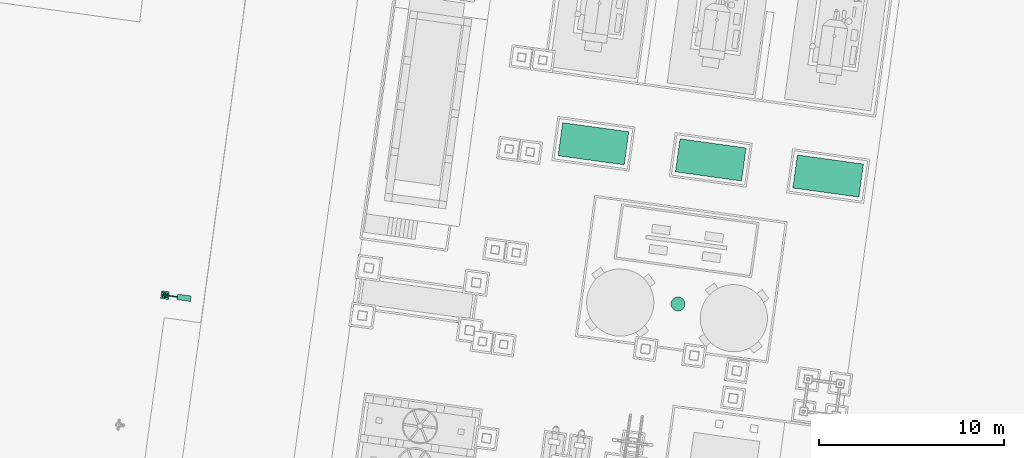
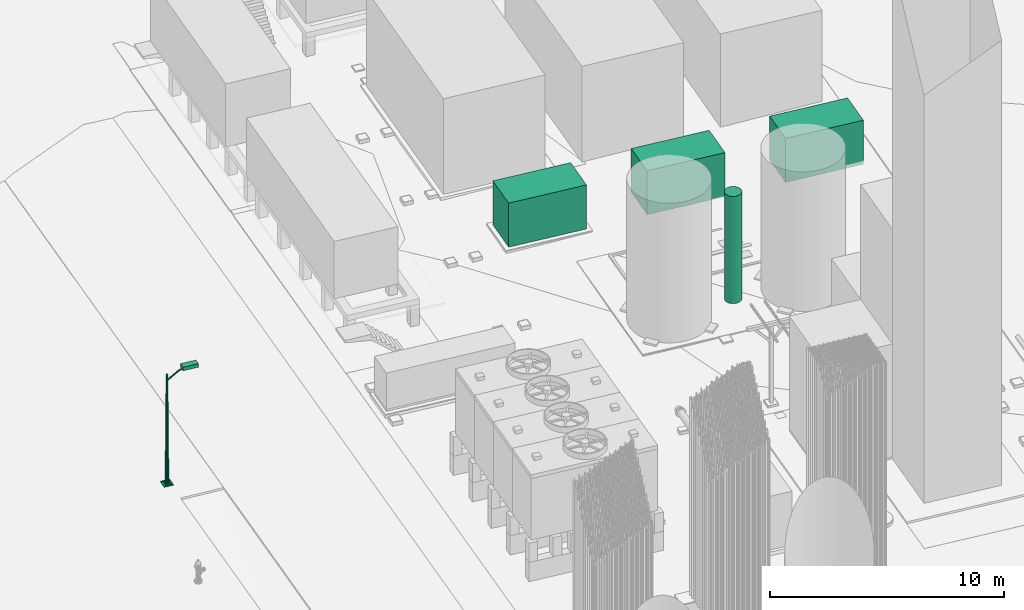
# Not in any storey, part 47 of 75: 3 unitary equipment elements, 1 electric appliance, 1 light fixture.
"""IFC4 model written with IfcOpenShell, lengths in metres."""

from ifc_helpers import new_model, si_unit, direction, origin, origin_with_axes, place, context, subcontext, project, spatial, triangles, element, save


model = new_model("IFC4")

# Units and contexts
model_context = context("Model", 3, precision=1e-05, world=origin_with_axes(), true_north=direction((0.0, 1.0)))
body_context = subcontext(model_context, "Body", "Model", "MODEL_VIEW")
ifc_project = project(units=[si_unit("AREAUNIT", "SQUARE_METRE"), si_unit("VOLUMEUNIT", "CUBIC_METRE"), si_unit("LENGTHUNIT", "METRE")], contexts=[model_context])

# Site
site_placement = place(None, origin_with_axes())
site = spatial("IfcSite", under=ifc_project, at=site_placement, Name="Parcela industrial Jinhong")

# Unitary equipment
unitary_equipment_1_placement = place(site_placement, origin_with_axes())
element("IfcUnitaryEquipment", 1, at=unitary_equipment_1_placement, inside=site, Name="Secador frigorífico de aire comprimido RU1101A", ObjectType="Envolvente de equipo", PredefinedType="USERDEFINED", context=body_context, shape_type="Tessellation", body=[
    triangles([(47.239312, 64.532918, 1.3000000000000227), (51.05093, 65.82581, 1.3000000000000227), (50.805763, 64.042584, 1.3000000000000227), (47.484479, 66.316144, 1.3000000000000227), (47.239312, 64.532918, 3.6000000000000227), (50.805763, 64.042584, 3.6000000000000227), (51.05093, 65.82581, 3.6000000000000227), (47.484479, 66.316144, 3.6000000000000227)], [[1, 2, 3], [1, 4, 2], [7, 5, 6], [7, 8, 5], [1, 3, 6], [5, 1, 6], [3, 2, 7], [3, 7, 6], [2, 4, 8], [7, 2, 8], [4, 1, 5], [5, 8, 4]], closed=True),
])
unitary_equipment_2_placement = place(site_placement, origin_with_axes())
element("IfcUnitaryEquipment", 2, at=unitary_equipment_2_placement, inside=site, Name="Secador frigorífico de aire comprimido RU1101B", ObjectType="Envolvente de equipo", PredefinedType="USERDEFINED", context=body_context, shape_type="Tessellation", body=[
    triangles([(53.579669, 63.661213, 1.3000000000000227), (57.391287, 64.954105, 1.3000000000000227), (57.14612, 63.170879, 1.3000000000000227), (53.824836, 65.444439, 1.3000000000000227), (53.579669, 63.661213, 3.6000000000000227), (57.14612, 63.170879, 3.6000000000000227), (57.391287, 64.954105, 3.6000000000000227), (53.824836, 65.444439, 3.6000000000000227)], [[1, 2, 3], [1, 4, 2], [7, 5, 6], [7, 8, 5], [1, 3, 6], [5, 1, 6], [3, 2, 7], [3, 7, 6], [2, 4, 8], [7, 2, 8], [4, 1, 5], [5, 8, 4]], closed=True),
])
unitary_equipment_3_placement = place(site_placement, origin_with_axes())
element("IfcUnitaryEquipment", 3, at=unitary_equipment_3_placement, inside=site, Name="Secador frigorífico de aire comprimido RU1101C", ObjectType="Envolvente de equipo", PredefinedType="USERDEFINED", context=body_context, shape_type="Tessellation", body=[
    triangles([(59.920026, 62.789508, 1.3000000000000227), (63.731644, 64.0824, 1.3000000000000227), (63.486477, 62.299174, 1.3000000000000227), (60.165193, 64.572734, 1.3000000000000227), (59.920026, 62.789508, 3.6000000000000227), (63.486477, 62.299174, 3.6000000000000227), (63.731644, 64.0824, 3.6000000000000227), (60.165193, 64.572734, 3.6000000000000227)], [[1, 2, 3], [1, 4, 2], [7, 5, 6], [7, 8, 5], [1, 3, 6], [5, 1, 6], [3, 2, 7], [3, 7, 6], [2, 4, 8], [7, 2, 8], [4, 1, 5], [5, 8, 4]], closed=True),
])

# Electric appliance
electric_appliance_placement = place(site_placement, origin_with_axes())
element("IfcElectricAppliance", 4, at=electric_appliance_placement, inside=site, Name="Calentador eléctrico · envolvente exterior documentada", ObjectType="Marcador de equipo en planta", PredefinedType="USERDEFINED", context=body_context, shape_type="Tessellation", body=[
    triangles([(53.71126721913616, 56.526642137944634, 1.2000000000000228), (54.08273823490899, 56.47557038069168, 1.2000000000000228), (54.085283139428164, 56.499975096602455, 1.2000000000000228), (54.08622645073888, 56.52449400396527, 1.2000000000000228), (54.085564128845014, 56.54902211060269, 1.2000000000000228), (54.08329901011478, 56.57345438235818, 1.2000000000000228), (54.079440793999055, 56.597686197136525, 1.2000000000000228), (54.074006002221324, 56.62161378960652, 1.2000000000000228), (54.0670179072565, 56.645134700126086, 1.2000000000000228), (54.05850643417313, 56.6681482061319, 1.2000000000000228), (54.04850802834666, 56.69055576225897, 1.2000000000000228), (54.03706550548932, 56.71226141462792, 1.2000000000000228), (54.02422786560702, 56.733172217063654, 1.2000000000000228), (54.01005007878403, 56.753198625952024, 1.2000000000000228), (53.994592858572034, 56.77225488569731, 1.2000000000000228), (53.97792239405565, 56.790259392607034, 1.2000000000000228), (53.96011007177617, 56.807135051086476, 1.2000000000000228), (53.94123216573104, 56.822809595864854, 1.2000000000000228), (53.92136951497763, 56.837215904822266, 1.2000000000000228), (53.90060717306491, 56.85029229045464, 1.2000000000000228), (53.87903404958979, 56.86198275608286, 1.2000000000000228), (53.85674252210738, 56.872237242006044, 1.2000000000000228), (53.83382804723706, 56.88101183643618, 1.2000000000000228), (53.81038874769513, 56.88826896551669, 1.2000000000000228), (53.78652499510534, 56.89397755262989, 1.2000000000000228), (53.76233897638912, 56.89811315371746, 1.2000000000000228), (53.73793426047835, 56.90065805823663, 1.2000000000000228), (53.71341535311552, 56.90160136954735, 1.2000000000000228), (53.68888724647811, 56.90093904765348, 1.2000000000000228), (53.664454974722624, 56.898673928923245, 1.2000000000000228), (53.64022315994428, 56.89481571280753, 1.2000000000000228), (53.61629556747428, 56.8893809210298, 1.2000000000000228), (53.59277465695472, 56.882392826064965, 1.2000000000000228), (53.56976115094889, 56.8738813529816, 1.2000000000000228), (53.54735359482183, 56.86388294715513, 1.2000000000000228), (53.52564794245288, 56.8524404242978, 1.2000000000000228), (53.50473714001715, 56.83960278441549, 1.2000000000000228), (53.48471073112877, 56.825424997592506, 1.2000000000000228), (53.46565447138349, 56.80996777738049, 1.2000000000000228), (53.44764996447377, 56.79329731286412, 1.2000000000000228), (53.430774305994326, 56.775484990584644, 1.2000000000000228), (53.41509976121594, 56.75660708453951, 1.2000000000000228), (53.40069345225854, 56.73674443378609, 1.2000000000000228), (53.38761706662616, 56.715982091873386, 1.2000000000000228), (53.37592660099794, 56.69440896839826, 1.2000000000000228), (53.36567211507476, 56.672117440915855, 1.2000000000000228), (53.35689752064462, 56.64920296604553, 1.2000000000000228), (53.349640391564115, 56.6257636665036, 1.2000000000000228), (53.343931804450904, 56.60189991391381, 1.2000000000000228), (53.33979620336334, 56.57771389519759, 1.2000000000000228), (53.337251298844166, 56.55330917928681, 1.2000000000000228), (53.33630798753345, 56.52879027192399, 1.2000000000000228), (53.33697030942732, 56.504262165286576, 1.2000000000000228), (53.33923542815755, 56.47982989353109, 1.2000000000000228), (53.343093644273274, 56.45559807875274, 1.2000000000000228), (53.348528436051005, 56.43167048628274, 1.2000000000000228), (53.35551653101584, 56.40814957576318, 1.2000000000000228), (53.3640280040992, 56.385136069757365, 1.2000000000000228), (53.37402640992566, 56.3627285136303, 1.2000000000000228), (53.385468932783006, 56.34102286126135, 1.2000000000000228), (53.39830657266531, 56.320112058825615, 1.2000000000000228), (53.4124843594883, 56.300085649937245, 1.2000000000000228), (53.4279415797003, 56.281029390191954, 1.2000000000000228), (53.44461204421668, 56.26302488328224, 1.2000000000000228), (53.46242436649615, 56.24614922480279, 1.2000000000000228), (53.481302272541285, 56.230474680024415, 1.2000000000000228), (53.50116492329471, 56.216068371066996, 1.2000000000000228), (53.52192726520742, 56.20299198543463, 1.2000000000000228), (53.543500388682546, 56.19130151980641, 1.2000000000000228), (53.56579191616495, 56.18104703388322, 1.2000000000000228), (53.588706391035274, 56.17227243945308, 1.2000000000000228), (53.612145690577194, 56.16501531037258, 1.2000000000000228), (53.636009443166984, 56.15930672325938, 1.2000000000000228), (53.66019546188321, 56.15517112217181, 1.2000000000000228), (53.68460017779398, 56.15262621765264, 1.2000000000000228), (53.70911908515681, 56.15168290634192, 1.2000000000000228), (53.73364719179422, 56.15234522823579, 1.2000000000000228), (53.758079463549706, 56.154610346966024, 1.2000000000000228), (53.78231127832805, 56.15846856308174, 1.2000000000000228), (53.806238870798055, 56.16390335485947, 1.2000000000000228), (53.82975978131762, 56.170891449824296, 1.2000000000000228), (53.85277328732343, 56.17940292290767, 1.2000000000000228), (53.875180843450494, 56.189401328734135, 1.2000000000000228), (53.89688649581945, 56.20084385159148, 1.2000000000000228), (53.91779729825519, 56.21368149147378, 1.2000000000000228), (53.937823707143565, 56.22785927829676, 1.2000000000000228), (53.95687996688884, 56.24331649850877, 1.2000000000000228), (53.97488447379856, 56.25998696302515, 1.2000000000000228), (53.991760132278, 56.277799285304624, 1.2000000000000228), (54.00743467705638, 56.29667719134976, 1.2000000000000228), (54.0218409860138, 56.31653984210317, 1.2000000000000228), (54.03491737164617, 56.33730218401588, 1.2000000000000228), (54.046607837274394, 56.358875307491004, 1.2000000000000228), (54.05686232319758, 56.38116683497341, 1.2000000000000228), (54.065636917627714, 56.40408130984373, 1.2000000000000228), (54.072894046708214, 56.42752060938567, 1.2000000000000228), (54.07860263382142, 56.45138436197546, 1.2000000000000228), (54.08273823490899, 56.47557038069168, 6.800000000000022), (54.085283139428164, 56.499975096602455, 6.800000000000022), (54.08622645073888, 56.52449400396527, 6.800000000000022), (54.085564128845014, 56.54902211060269, 6.800000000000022), (54.08329901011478, 56.57345438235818, 6.800000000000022), (54.079440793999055, 56.597686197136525, 6.800000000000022), (54.074006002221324, 56.62161378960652, 6.800000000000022), (54.0670179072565, 56.645134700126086, 6.800000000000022), (54.05850643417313, 56.6681482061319, 6.800000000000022), (54.04850802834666, 56.69055576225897, 6.800000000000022), (54.03706550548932, 56.71226141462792, 6.800000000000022), (54.02422786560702, 56.733172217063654, 6.800000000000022), (54.01005007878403, 56.753198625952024, 6.800000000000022), (53.994592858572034, 56.77225488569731, 6.800000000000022), (53.97792239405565, 56.790259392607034, 6.800000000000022), (53.96011007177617, 56.807135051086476, 6.800000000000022), (53.94123216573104, 56.822809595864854, 6.800000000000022), (53.92136951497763, 56.837215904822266, 6.800000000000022), (53.90060717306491, 56.85029229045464, 6.800000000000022), (53.87903404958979, 56.86198275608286, 6.800000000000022), (53.85674252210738, 56.872237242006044, 6.800000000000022), (53.83382804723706, 56.88101183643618, 6.800000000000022), (53.81038874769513, 56.88826896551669, 6.800000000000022), (53.78652499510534, 56.89397755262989, 6.800000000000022), (53.76233897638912, 56.89811315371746, 6.800000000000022), (53.73793426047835, 56.90065805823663, 6.800000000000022), (53.71341535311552, 56.90160136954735, 6.800000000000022), (53.68888724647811, 56.90093904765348, 6.800000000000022), (53.664454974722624, 56.898673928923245, 6.800000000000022), (53.64022315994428, 56.89481571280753, 6.800000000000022), (53.61629556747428, 56.8893809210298, 6.800000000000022), (53.59277465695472, 56.882392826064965, 6.800000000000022), (53.56976115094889, 56.8738813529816, 6.800000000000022), (53.54735359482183, 56.86388294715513, 6.800000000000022), (53.52564794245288, 56.8524404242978, 6.800000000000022), (53.50473714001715, 56.83960278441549, 6.800000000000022), (53.48471073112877, 56.825424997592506, 6.800000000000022), (53.46565447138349, 56.80996777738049, 6.800000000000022), (53.44764996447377, 56.79329731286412, 6.800000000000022), (53.430774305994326, 56.775484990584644, 6.800000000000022), (53.41509976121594, 56.75660708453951, 6.800000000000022), (53.40069345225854, 56.73674443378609, 6.800000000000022), (53.38761706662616, 56.715982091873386, 6.800000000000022), (53.37592660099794, 56.69440896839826, 6.800000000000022), (53.36567211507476, 56.672117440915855, 6.800000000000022), (53.35689752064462, 56.64920296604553, 6.800000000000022), (53.349640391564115, 56.6257636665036, 6.800000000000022), (53.343931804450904, 56.60189991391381, 6.800000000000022), (53.33979620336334, 56.57771389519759, 6.800000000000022), (53.337251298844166, 56.55330917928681, 6.800000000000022), (53.33630798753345, 56.52879027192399, 6.800000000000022), (53.33697030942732, 56.504262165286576, 6.800000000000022), (53.33923542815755, 56.47982989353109, 6.800000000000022), (53.343093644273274, 56.45559807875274, 6.800000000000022), (53.348528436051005, 56.43167048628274, 6.800000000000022), (53.35551653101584, 56.40814957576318, 6.800000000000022), (53.3640280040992, 56.385136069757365, 6.800000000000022), (53.37402640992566, 56.3627285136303, 6.800000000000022), (53.385468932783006, 56.34102286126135, 6.800000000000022), (53.39830657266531, 56.320112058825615, 6.800000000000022), (53.4124843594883, 56.300085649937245, 6.800000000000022), (53.4279415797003, 56.281029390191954, 6.800000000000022), (53.44461204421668, 56.26302488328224, 6.800000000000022), (53.46242436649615, 56.24614922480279, 6.800000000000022), (53.481302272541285, 56.230474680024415, 6.800000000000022), (53.50116492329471, 56.216068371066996, 6.800000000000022), (53.52192726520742, 56.20299198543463, 6.800000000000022), (53.543500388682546, 56.19130151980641, 6.800000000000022), (53.56579191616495, 56.18104703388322, 6.800000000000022), (53.588706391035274, 56.17227243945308, 6.800000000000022), (53.612145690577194, 56.16501531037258, 6.800000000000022), (53.636009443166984, 56.15930672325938, 6.800000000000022), (53.66019546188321, 56.15517112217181, 6.800000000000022), (53.68460017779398, 56.15262621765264, 6.800000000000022), (53.70911908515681, 56.15168290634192, 6.800000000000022), (53.73364719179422, 56.15234522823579, 6.800000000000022), (53.758079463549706, 56.154610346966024, 6.800000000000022), (53.78231127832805, 56.15846856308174, 6.800000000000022), (53.806238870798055, 56.16390335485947, 6.800000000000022), (53.82975978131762, 56.170891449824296, 6.800000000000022), (53.85277328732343, 56.17940292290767, 6.800000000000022), (53.875180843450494, 56.189401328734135, 6.800000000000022), (53.89688649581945, 56.20084385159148, 6.800000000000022), (53.91779729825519, 56.21368149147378, 6.800000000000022), (53.937823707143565, 56.22785927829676, 6.800000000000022), (53.95687996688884, 56.24331649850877, 6.800000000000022), (53.97488447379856, 56.25998696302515, 6.800000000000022), (53.991760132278, 56.277799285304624, 6.800000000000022), (54.00743467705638, 56.29667719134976, 6.800000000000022), (54.0218409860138, 56.31653984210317, 6.800000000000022), (54.03491737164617, 56.33730218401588, 6.800000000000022), (54.046607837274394, 56.358875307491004, 6.800000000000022), (54.05686232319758, 56.38116683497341, 6.800000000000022), (54.065636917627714, 56.40408130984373, 6.800000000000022), (54.072894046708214, 56.42752060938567, 6.800000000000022), (54.07860263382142, 56.45138436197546, 6.800000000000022), (53.71126721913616, 56.526642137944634, 6.800000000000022)], [[3, 2, 1], [4, 3, 1], [5, 4, 1], [6, 5, 1], [7, 6, 1], [8, 7, 1], [9, 8, 1], [10, 9, 1], [11, 10, 1], [12, 11, 1], [13, 12, 1], [14, 13, 1], [15, 14, 1], [16, 15, 1], [17, 16, 1], [18, 17, 1], [19, 18, 1], [20, 19, 1], [21, 20, 1], [22, 21, 1], [23, 22, 1], [24, 23, 1], [25, 24, 1], [26, 25, 1], [27, 26, 1], [28, 27, 1], [29, 28, 1], [30, 29, 1], [31, 30, 1], [32, 31, 1], [33, 32, 1], [34, 33, 1], [35, 34, 1], [36, 35, 1], [37, 36, 1], [38, 37, 1], [39, 38, 1], [40, 39, 1], [41, 40, 1], [42, 41, 1], [43, 42, 1], [44, 43, 1], [45, 44, 1], [46, 45, 1], [47, 46, 1], [48, 47, 1], [49, 48, 1], [50, 49, 1], [51, 50, 1], [52, 51, 1], [53, 52, 1], [54, 53, 1], [55, 54, 1], [56, 55, 1], [57, 56, 1], [58, 57, 1], [59, 58, 1], [60, 59, 1], [61, 60, 1], [62, 61, 1], [63, 62, 1], [64, 63, 1], [65, 64, 1], [66, 65, 1], [67, 66, 1], [68, 67, 1], [69, 68, 1], [70, 69, 1], [71, 70, 1], [72, 71, 1], [73, 72, 1], [74, 73, 1], [75, 74, 1], [76, 75, 1], [77, 76, 1], [78, 77, 1], [79, 78, 1], [80, 79, 1], [81, 80, 1], [82, 81, 1], [83, 82, 1], [84, 83, 1], [85, 84, 1], [86, 85, 1], [87, 86, 1], [88, 87, 1], [89, 88, 1], [90, 89, 1], [91, 90, 1], [92, 91, 1], [93, 92, 1], [94, 93, 1], [95, 94, 1], [96, 95, 1], [97, 96, 1], [2, 97, 1], [99, 98, 2], [3, 99, 2], [100, 99, 3], [4, 100, 3], [101, 100, 4], [5, 101, 4], [102, 101, 5], [6, 102, 5], [103, 102, 6], [7, 103, 6], [104, 103, 7], [8, 104, 7], [105, 104, 8], [9, 105, 8], [106, 105, 9], [10, 106, 9], [107, 106, 10], [11, 107, 10], [108, 107, 11], [12, 108, 11], [109, 108, 12], [13, 109, 12], [110, 109, 13], [14, 110, 13], [111, 110, 14], [15, 111, 14], [112, 111, 15], [16, 112, 15], [113, 112, 16], [17, 113, 16], [114, 113, 17], [18, 114, 17], [115, 114, 18], [19, 115, 18], [116, 115, 19], [20, 116, 19], [117, 116, 20], [21, 117, 20], [118, 117, 21], [22, 118, 21], [119, 118, 22], [23, 119, 22], [120, 119, 23], [24, 120, 23], [121, 120, 24], [25, 121, 24], [122, 121, 25], [26, 122, 25], [123, 122, 26], [27, 123, 26], [124, 123, 27], [28, 124, 27], [125, 124, 28], [29, 125, 28], [126, 125, 29], [30, 126, 29], [127, 126, 30], [31, 127, 30], [128, 127, 31], [32, 128, 31], [129, 128, 32], [33, 129, 32], [130, 129, 33], [34, 130, 33], [131, 130, 34], [35, 131, 34], [132, 131, 35], [36, 132, 35], [133, 132, 36], [37, 133, 36], [134, 133, 37], [38, 134, 37], [135, 134, 38], [39, 135, 38], [136, 135, 39], [40, 136, 39], [137, 136, 40], [41, 137, 40], [138, 137, 41], [42, 138, 41], [139, 138, 42], [43, 139, 42], [140, 139, 43], [44, 140, 43], [141, 140, 44], [45, 141, 44], [142, 141, 45], [46, 142, 45], [143, 142, 46], [47, 143, 46], [144, 143, 47], [48, 144, 47], [145, 144, 48], [49, 145, 48], [146, 145, 49], [50, 146, 49], [147, 146, 50], [51, 147, 50], [148, 147, 51], [52, 148, 51], [149, 148, 52], [53, 149, 52], [150, 149, 53], [54, 150, 53], [151, 150, 54], [55, 151, 54], [152, 151, 55], [56, 152, 55], [153, 152, 56], [57, 153, 56], [154, 153, 57], [58, 154, 57], [155, 154, 58], [59, 155, 58], [156, 155, 59], [60, 156, 59], [157, 156, 60], [61, 157, 60], [158, 157, 61], [62, 158, 61], [159, 158, 62], [63, 159, 62], [160, 159, 63], [64, 160, 63], [161, 160, 64], [65, 161, 64], [162, 161, 65], [66, 162, 65], [163, 162, 66], [67, 163, 66], [164, 163, 67], [68, 164, 67], [165, 164, 68], [69, 165, 68], [166, 165, 69], [70, 166, 69], [167, 166, 70], [71, 167, 70], [168, 167, 71], [72, 168, 71], [169, 168, 72], [73, 169, 72], [170, 169, 73], [74, 170, 73], [171, 170, 74], [75, 171, 74], [172, 171, 75], [76, 172, 75], [173, 172, 76], [77, 173, 76], [174, 173, 77], [78, 174, 77], [175, 174, 78], [79, 175, 78], [176, 175, 79], [80, 176, 79], [177, 176, 80], [81, 177, 80], [178, 177, 81], [82, 178, 81], [179, 178, 82], [83, 179, 82], [180, 179, 83], [84, 180, 83], [181, 180, 84], [85, 181, 84], [182, 181, 85], [86, 182, 85], [183, 182, 86], [87, 183, 86], [184, 183, 87], [88, 184, 87], [185, 184, 88], [89, 185, 88], [186, 185, 89], [90, 186, 89], [187, 186, 90], [91, 187, 90], [188, 187, 91], [92, 188, 91], [189, 188, 92], [93, 189, 92], [190, 189, 93], [94, 190, 93], [191, 190, 94], [95, 191, 94], [192, 191, 95], [96, 192, 95], [193, 192, 96], [97, 193, 96], [98, 193, 97], [2, 98, 97], [99, 194, 98], [100, 194, 99], [101, 194, 100], [102, 194, 101], [103, 194, 102], [104, 194, 103], [105, 194, 104], [106, 194, 105], [107, 194, 106], [108, 194, 107], [109, 194, 108], [110, 194, 109], [111, 194, 110], [112, 194, 111], [113, 194, 112], [114, 194, 113], [115, 194, 114], [116, 194, 115], [117, 194, 116], [118, 194, 117], [119, 194, 118], [120, 194, 119], [121, 194, 120], [122, 194, 121], [123, 194, 122], [124, 194, 123], [125, 194, 124], [126, 194, 125], [127, 194, 126], [128, 194, 127], [129, 194, 128], [130, 194, 129], [131, 194, 130], [132, 194, 131], [133, 194, 132], [134, 194, 133], [135, 194, 134], [136, 194, 135], [137, 194, 136], [138, 194, 137], [139, 194, 138], [140, 194, 139], [141, 194, 140], [142, 194, 141], [143, 194, 142], [144, 194, 143], [145, 194, 144], [146, 194, 145], [147, 194, 146], [148, 194, 147], [149, 194, 148], [150, 194, 149], [151, 194, 150], [152, 194, 151], [153, 194, 152], [154, 194, 153], [155, 194, 154], [156, 194, 155], [157, 194, 156], [158, 194, 157], [159, 194, 158], [160, 194, 159], [161, 194, 160], [162, 194, 161], [163, 194, 162], [164, 194, 163], [165, 194, 164], [166, 194, 165], [167, 194, 166], [168, 194, 167], [169, 194, 168], [170, 194, 169], [171, 194, 170], [172, 194, 171], [173, 194, 172], [174, 194, 173], [175, 194, 174], [176, 194, 175], [177, 194, 176], [178, 194, 177], [179, 194, 178], [180, 194, 179], [181, 194, 180], [182, 194, 181], [183, 194, 182], [184, 194, 183], [185, 194, 184], [186, 194, 185], [187, 194, 186], [188, 194, 187], [189, 194, 188], [190, 194, 189], [191, 194, 190], [192, 194, 191], [193, 194, 192], [98, 194, 193]], closed=True),
])

# Light fixture
light_fixture_placement = place(None, origin())
element("IfcLightFixture", 5, at=light_fixture_placement, inside=site, Name="Luminaria LED L08 · provisional", ObjectType="Luminaria exterior provisional", PredefinedType="USERDEFINED", context=body_context, shape_type="Tessellation", body=[
    triangles([(25.763308, 56.820621, 0.938896), (25.763308, 56.820621, 0.998896), (25.820621, 57.236692, 0.938896), (25.820621, 57.236692, 0.998896), (26.179379, 56.763308, 0.938896), (26.179379, 56.763308, 0.998896), (26.236692, 57.179379, 0.938896), (26.236692, 57.179379, 0.998896)], [[2, 4, 1], [5, 2, 1], [1, 4, 3], [3, 5, 1], [2, 8, 4], [6, 2, 5], [6, 8, 2], [4, 8, 3], [7, 5, 3], [3, 8, 7], [7, 6, 5], [8, 6, 7]], closed=True),
    triangles([(26.0, 57.0, 0.998896), (26.13869, 56.980896, 0.998896), (26.13869, 56.980896, 1.058896), (26.0, 57.0, 1.058896), (26.135444, 57.035425, 0.998896), (26.135444, 57.035425, 1.058896), (26.111578, 57.08456, 0.998896), (26.111578, 57.08456, 1.058896), (26.070725, 57.120822, 0.998896), (26.070725, 57.120822, 1.058896), (26.019104, 57.13869, 0.998896), (26.019104, 57.13869, 1.058896), (25.964575, 57.135444, 0.998896), (25.964575, 57.135444, 1.058896), (25.91544, 57.111578, 0.998896), (25.91544, 57.111578, 1.058896), (25.879178, 57.070725, 0.998896), (25.879178, 57.070725, 1.058896), (25.86131, 57.019104, 0.998896), (25.86131, 57.019104, 1.058896), (25.864556, 56.964575, 0.998896), (25.864556, 56.964575, 1.058896), (25.888422, 56.91544, 0.998896), (25.888422, 56.91544, 1.058896), (25.929275, 56.879178, 0.998896), (25.929275, 56.879178, 1.058896), (25.980896, 56.86131, 0.998896), (25.980896, 56.86131, 1.058896), (26.035425, 56.864556, 0.998896), (26.035425, 56.864556, 1.058896), (26.08456, 56.888422, 0.998896), (26.08456, 56.888422, 1.058896), (26.120822, 56.929275, 0.998896), (26.120822, 56.929275, 1.058896)], [[2, 1, 5], [2, 5, 3], [3, 5, 6], [3, 6, 4], [5, 1, 7], [5, 7, 6], [6, 7, 8], [6, 8, 4], [7, 1, 9], [7, 9, 8], [8, 9, 10], [8, 10, 4], [9, 1, 11], [9, 11, 10], [10, 11, 12], [10, 12, 4], [11, 1, 13], [11, 13, 12], [12, 13, 14], [12, 14, 4], [13, 1, 15], [13, 15, 14], [14, 15, 16], [14, 16, 4], [15, 1, 17], [15, 17, 16], [16, 17, 18], [16, 18, 4], [17, 1, 19], [17, 19, 18], [18, 19, 20], [18, 20, 4], [19, 1, 21], [19, 21, 20], [20, 21, 22], [20, 22, 4], [21, 1, 23], [21, 23, 22], [22, 23, 24], [22, 24, 4], [23, 1, 25], [23, 25, 24], [24, 25, 26], [24, 26, 4], [25, 1, 27], [25, 27, 26], [26, 27, 28], [26, 28, 4], [27, 1, 29], [27, 29, 28], [28, 29, 30], [28, 30, 4], [29, 1, 31], [29, 31, 30], [30, 31, 32], [30, 32, 4], [31, 1, 33], [31, 33, 32], [32, 33, 34], [32, 34, 4], [33, 1, 2], [33, 2, 34], [34, 2, 3], [34, 3, 4]], closed=True),
    triangles([(26.084205, 56.988401, 1.058896), (26.082234, 57.021508, 1.058896), (26.067744, 57.05134, 1.058896), (26.04294, 57.073356, 1.058896), (26.011599, 57.084205, 1.058896), (25.978492, 57.082234, 1.058896), (25.94866, 57.067744, 1.058896), (25.926644, 57.04294, 1.058896), (25.915795, 57.011599, 1.058896), (25.917766, 56.978492, 1.058896), (25.932256, 56.94866, 1.058896), (25.95706, 56.926644, 1.058896), (25.988401, 56.915795, 1.058896), (26.021508, 56.917766, 1.058896), (26.05134, 56.932256, 1.058896), (26.073356, 56.95706, 1.058896), (26.044579, 56.993859, 6.638896), (26.043536, 57.011386, 6.638896), (26.035864, 57.02718, 6.638896), (26.022733, 57.038836, 6.638896), (26.006141, 57.044579, 6.638896), (25.988614, 57.043536, 6.638896), (25.97282, 57.035864, 6.638896), (25.961164, 57.022733, 6.638896), (25.955421, 57.006141, 6.638896), (25.956464, 56.988614, 6.638896), (25.964136, 56.97282, 6.638896), (25.977267, 56.961164, 6.638896), (25.993859, 56.955421, 6.638896), (26.011386, 56.956464, 6.638896), (26.02718, 56.964136, 6.638896), (26.038836, 56.977267, 6.638896)], [[31, 14, 15], [30, 14, 31], [29, 14, 30], [13, 14, 29], [26, 10, 11], [26, 11, 27], [9, 10, 26], [26, 25, 9], [4, 10, 9], [1, 16, 4], [13, 12, 4], [4, 6, 5], [9, 8, 4], [4, 2, 1], [4, 16, 15], [3, 2, 4], [4, 12, 11], [11, 10, 4], [4, 14, 13], [15, 14, 4], [7, 6, 4], [4, 8, 7], [1, 2, 18], [18, 17, 1], [32, 16, 1], [1, 17, 32], [15, 16, 32], [32, 31, 15], [11, 12, 28], [27, 11, 28], [28, 12, 13], [13, 29, 28], [21, 4, 5], [20, 4, 21], [7, 8, 24], [23, 7, 24], [9, 25, 24], [24, 8, 9], [3, 4, 19], [19, 4, 20], [19, 2, 3], [19, 18, 2], [22, 32, 17], [22, 26, 27], [17, 18, 22], [22, 19, 20], [27, 28, 22], [30, 31, 22], [22, 29, 30], [25, 26, 22], [23, 24, 22], [31, 32, 22], [22, 28, 29], [20, 21, 22], [22, 24, 25], [18, 19, 22], [22, 6, 7], [22, 7, 23], [5, 6, 22], [22, 21, 5]], closed=True),
    triangles([(26.0, 57.0, 6.638896), (26.04656, 56.993586, 6.638896), (26.04656, 56.993586, 6.658896), (26.0, 57.0, 6.658896), (26.045471, 57.011893, 6.638896), (26.045471, 57.011893, 6.658896), (26.037458, 57.028388, 6.638896), (26.037458, 57.028388, 6.658896), (26.023743, 57.040562, 6.638896), (26.023743, 57.040562, 6.658896), (26.006414, 57.04656, 6.638896), (26.006414, 57.04656, 6.658896), (25.988107, 57.045471, 6.638896), (25.988107, 57.045471, 6.658896), (25.971612, 57.037458, 6.638896), (25.971612, 57.037458, 6.658896), (25.959438, 57.023743, 6.638896), (25.959438, 57.023743, 6.658896), (25.95344, 57.006414, 6.638896), (25.95344, 57.006414, 6.658896), (25.954529, 56.988107, 6.638896), (25.954529, 56.988107, 6.658896), (25.962542, 56.971612, 6.638896), (25.962542, 56.971612, 6.658896), (25.976257, 56.959438, 6.638896), (25.976257, 56.959438, 6.658896), (25.993586, 56.95344, 6.638896), (25.993586, 56.95344, 6.658896), (26.011893, 56.954529, 6.638896), (26.011893, 56.954529, 6.658896), (26.028388, 56.962542, 6.638896), (26.028388, 56.962542, 6.658896), (26.040562, 56.976257, 6.638896), (26.040562, 56.976257, 6.658896)], [[2, 1, 5], [2, 5, 3], [3, 5, 6], [3, 6, 4], [5, 1, 7], [5, 7, 6], [6, 7, 8], [6, 8, 4], [7, 1, 9], [7, 9, 8], [8, 9, 10], [8, 10, 4], [9, 1, 11], [9, 11, 10], [10, 11, 12], [10, 12, 4], [11, 1, 13], [11, 13, 12], [12, 13, 14], [12, 14, 4], [13, 1, 15], [13, 15, 14], [14, 15, 16], [14, 16, 4], [15, 1, 17], [15, 17, 16], [16, 17, 18], [16, 18, 4], [17, 1, 19], [17, 19, 18], [18, 19, 20], [18, 20, 4], [19, 1, 21], [19, 21, 20], [20, 21, 22], [20, 22, 4], [21, 1, 23], [21, 23, 22], [22, 23, 24], [22, 24, 4], [23, 1, 25], [23, 25, 24], [24, 25, 26], [24, 26, 4], [25, 1, 27], [25, 27, 26], [26, 27, 28], [26, 28, 4], [27, 1, 29], [27, 29, 28], [28, 29, 30], [28, 30, 4], [29, 1, 31], [29, 31, 30], [30, 31, 32], [30, 32, 4], [31, 1, 33], [31, 33, 32], [32, 33, 34], [32, 34, 4], [33, 1, 2], [33, 2, 34], [34, 2, 3], [34, 3, 4]], closed=True),
    triangles([(25.853476, 56.888956, 0.998896), (25.871308, 56.886499, 0.998896), (25.871308, 56.886499, 1.023896), (25.853476, 56.888956, 1.023896), (25.864519, 56.90317, 0.998896), (25.864519, 56.90317, 1.023896), (25.846688, 56.905626, 0.998896), (25.846688, 56.905626, 1.023896), (25.835645, 56.891412, 0.998896), (25.835645, 56.891412, 1.023896), (25.842433, 56.874741, 0.998896), (25.842433, 56.874741, 1.023896), (25.860265, 56.872285, 0.998896), (25.860265, 56.872285, 1.023896)], [[2, 1, 5], [2, 5, 3], [3, 5, 6], [3, 6, 4], [5, 1, 7], [5, 7, 6], [6, 7, 8], [6, 8, 4], [7, 1, 9], [7, 9, 8], [8, 9, 10], [8, 10, 4], [9, 1, 11], [9, 11, 10], [10, 11, 12], [10, 12, 4], [11, 1, 13], [11, 13, 12], [12, 13, 14], [12, 14, 4], [13, 1, 2], [13, 2, 14], [14, 2, 3], [14, 3, 4]], closed=True),
    triangles([(25.888956, 57.146524, 0.998896), (25.906787, 57.144067, 0.998896), (25.906787, 57.144067, 1.023896), (25.888956, 57.146524, 1.023896), (25.899999, 57.160738, 0.998896), (25.899999, 57.160738, 1.023896), (25.882167, 57.163194, 0.998896), (25.882167, 57.163194, 1.023896), (25.871124, 57.14898, 0.998896), (25.871124, 57.14898, 1.023896), (25.877913, 57.132309, 0.998896), (25.877913, 57.132309, 1.023896), (25.895744, 57.129853, 0.998896), (25.895744, 57.129853, 1.023896)], [[2, 1, 5], [2, 5, 3], [3, 5, 6], [3, 6, 4], [5, 1, 7], [5, 7, 6], [6, 7, 8], [6, 8, 4], [7, 1, 9], [7, 9, 8], [8, 9, 10], [8, 10, 4], [9, 1, 11], [9, 11, 10], [10, 11, 12], [10, 12, 4], [11, 1, 13], [11, 13, 12], [12, 13, 14], [12, 14, 4], [13, 1, 2], [13, 2, 14], [14, 2, 3], [14, 3, 4]], closed=True),
    triangles([(26.111044, 56.853476, 0.998896), (26.128876, 56.85102, 0.998896), (26.128876, 56.85102, 1.023896), (26.111044, 56.853476, 1.023896), (26.122087, 56.867691, 0.998896), (26.122087, 56.867691, 1.023896), (26.104256, 56.870147, 0.998896), (26.104256, 56.870147, 1.023896), (26.093213, 56.855933, 0.998896), (26.093213, 56.855933, 1.023896), (26.100001, 56.839262, 0.998896), (26.100001, 56.839262, 1.023896), (26.117833, 56.836806, 0.998896), (26.117833, 56.836806, 1.023896)], [[2, 1, 5], [2, 5, 3], [3, 5, 6], [3, 6, 4], [5, 1, 7], [5, 7, 6], [6, 7, 8], [6, 8, 4], [7, 1, 9], [7, 9, 8], [8, 9, 10], [8, 10, 4], [9, 1, 11], [9, 11, 10], [10, 11, 12], [10, 12, 4], [11, 1, 13], [11, 13, 12], [12, 13, 14], [12, 14, 4], [13, 1, 2], [13, 2, 14], [14, 2, 3], [14, 3, 4]], closed=True),
    triangles([(26.146524, 57.111044, 0.998896), (26.164355, 57.108588, 0.998896), (26.164355, 57.108588, 1.023896), (26.146524, 57.111044, 1.023896), (26.157567, 57.125259, 0.998896), (26.157567, 57.125259, 1.023896), (26.139735, 57.127715, 0.998896), (26.139735, 57.127715, 1.023896), (26.128692, 57.113501, 0.998896), (26.128692, 57.113501, 1.023896), (26.135481, 57.09683, 0.998896), (26.135481, 57.09683, 1.023896), (26.153312, 57.094374, 0.998896), (26.153312, 57.094374, 1.023896)], [[2, 1, 5], [2, 5, 3], [3, 5, 6], [3, 6, 4], [5, 1, 7], [5, 7, 6], [6, 7, 8], [6, 8, 4], [7, 1, 9], [7, 9, 8], [8, 9, 10], [8, 10, 4], [9, 1, 11], [9, 11, 10], [10, 11, 12], [10, 12, 4], [11, 1, 13], [11, 13, 12], [12, 13, 14], [12, 14, 4], [13, 1, 2], [13, 2, 14], [14, 2, 3], [14, 3, 4]], closed=True),
    triangles([(26.069522, 56.955093, 1.468896), (26.069522, 56.955093, 1.768896), (26.079074, 57.024438, 1.468896), (26.079074, 57.024438, 1.768896), (26.08141, 56.953455, 1.468896), (26.08141, 56.953455, 1.768896), (26.090962, 57.022801, 1.468896), (26.090962, 57.022801, 1.768896)], [[2, 4, 1], [5, 2, 1], [1, 4, 3], [3, 5, 1], [2, 8, 4], [6, 2, 5], [6, 8, 2], [4, 8, 3], [7, 5, 3], [3, 8, 7], [7, 6, 5], [8, 6, 7]], closed=True),
    triangles([(26.0, 57.0, 6.338896), (26.019146, 56.997363, 6.310923), (26.564001, 56.92231, 6.690923), (26.544855, 56.924948, 6.718896), (26.018901, 57.014557, 6.314671), (26.563756, 56.939505, 6.694671), (26.013591, 57.027851, 6.32491), (26.558446, 56.952798, 6.70491), (26.00464, 57.033682, 6.338896), (26.549495, 56.95863, 6.718896), (25.994445, 57.030488, 6.352883), (26.5393, 56.955436, 6.732883), (25.985739, 57.019125, 6.363121), (26.530594, 56.944073, 6.743121), (25.980854, 57.002637, 6.366869), (26.525709, 56.927585, 6.746869), (25.981099, 56.985443, 6.363121), (26.525955, 56.910391, 6.743121), (25.986409, 56.972149, 6.352883), (26.531264, 56.897097, 6.732883), (25.99536, 56.966318, 6.338896), (26.540216, 56.891266, 6.718896), (26.005555, 56.969512, 6.32491), (26.55041, 56.89446, 6.70491), (26.014261, 56.980875, 6.314671), (26.559116, 56.905823, 6.694671)], [[2, 1, 5], [2, 5, 3], [3, 5, 6], [3, 6, 4], [5, 1, 7], [5, 7, 6], [6, 7, 8], [6, 8, 4], [7, 1, 9], [7, 9, 8], [8, 9, 10], [8, 10, 4], [9, 1, 11], [9, 11, 10], [10, 11, 12], [10, 12, 4], [11, 1, 13], [11, 13, 12], [12, 13, 14], [12, 14, 4], [13, 1, 15], [13, 15, 14], [14, 15, 16], [14, 16, 4], [15, 1, 17], [15, 17, 16], [16, 17, 18], [16, 18, 4], [17, 1, 19], [17, 19, 18], [18, 19, 20], [18, 20, 4], [19, 1, 21], [19, 21, 20], [20, 21, 22], [20, 22, 4], [21, 1, 23], [21, 23, 22], [22, 23, 24], [22, 24, 4], [23, 1, 25], [23, 25, 24], [24, 25, 26], [24, 26, 4], [25, 1, 2], [25, 2, 26], [26, 2, 3], [26, 3, 4]], closed=True),
    triangles([(26.544855, 56.924948, 6.718896), (26.555779, 56.923443, 6.686734), (26.902505, 56.875682, 6.806734), (26.891581, 56.877187, 6.838896), (26.556635, 56.940485, 6.691043), (26.903361, 56.892725, 6.811043), (26.554335, 56.953365, 6.702815), (26.901061, 56.905604, 6.822815), (26.549495, 56.95863, 6.718896), (26.896221, 56.910869, 6.838896), (26.543411, 56.954869, 6.734977), (26.890137, 56.907109, 6.854977), (26.537715, 56.943092, 6.74675), (26.884441, 56.895331, 6.86675), (26.533931, 56.926452, 6.751058), (26.880657, 56.878692, 6.871058), (26.533075, 56.90941, 6.74675), (26.879801, 56.861649, 6.86675), (26.535375, 56.896531, 6.734977), (26.882101, 56.84877, 6.854977), (26.540216, 56.891266, 6.718896), (26.886942, 56.843505, 6.838896), (26.546299, 56.895026, 6.702815), (26.893025, 56.847265, 6.822815), (26.551996, 56.906804, 6.691043), (26.898722, 56.859043, 6.811043)], [[2, 1, 5], [2, 5, 3], [3, 5, 6], [3, 6, 4], [5, 1, 7], [5, 7, 6], [6, 7, 8], [6, 8, 4], [7, 1, 9], [7, 9, 8], [8, 9, 10], [8, 10, 4], [9, 1, 11], [9, 11, 10], [10, 11, 12], [10, 12, 4], [11, 1, 13], [11, 13, 12], [12, 13, 14], [12, 14, 4], [13, 1, 15], [13, 15, 14], [14, 15, 16], [14, 16, 4], [15, 1, 17], [15, 17, 16], [16, 17, 18], [16, 18, 4], [17, 1, 19], [17, 19, 18], [18, 19, 20], [18, 20, 4], [19, 1, 21], [19, 21, 20], [20, 21, 22], [20, 22, 4], [21, 1, 23], [21, 23, 22], [22, 23, 24], [22, 24, 4], [23, 1, 25], [23, 25, 24], [24, 25, 26], [24, 26, 4], [25, 1, 2], [25, 2, 26], [26, 2, 3], [26, 3, 4]], closed=True),
    triangles([(26.65317, 56.758611, 6.758896), (26.65317, 56.758611, 6.938896), (26.694108, 57.055805, 6.758896), (26.694108, 57.055805, 6.938896), (27.366435, 56.660361, 6.758896), (27.366435, 56.660361, 6.938896), (27.407373, 56.957555, 6.758896), (27.407373, 56.957555, 6.938896)], [[2, 4, 1], [5, 2, 1], [1, 4, 3], [3, 5, 1], [2, 8, 4], [6, 2, 5], [6, 8, 2], [4, 8, 3], [7, 5, 3], [3, 8, 7], [7, 6, 5], [8, 6, 7]], closed=True),
    triangles([(26.718067, 56.790049, 6.733896), (26.718067, 56.790049, 6.758896), (26.748088, 57.007992, 6.733896), (26.748088, 57.007992, 6.758896), (27.312455, 56.708174, 6.733896), (27.312455, 56.708174, 6.758896), (27.342476, 56.926116, 6.733896), (27.342476, 56.926116, 6.758896)], [[2, 4, 1], [5, 2, 1], [1, 4, 3], [3, 5, 1], [2, 8, 4], [6, 2, 5], [6, 8, 2], [4, 8, 3], [7, 5, 3], [3, 8, 7], [7, 6, 5], [8, 6, 7]], closed=True),
])

save(model, "model.ifc")
